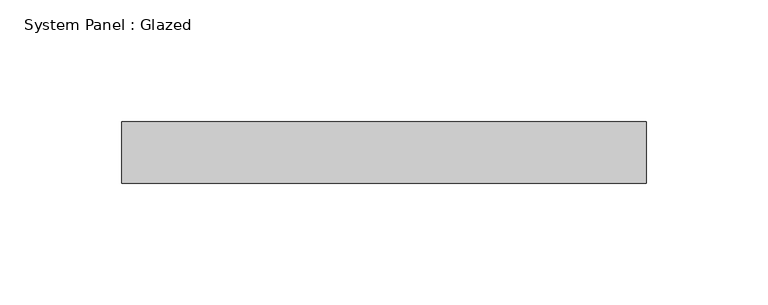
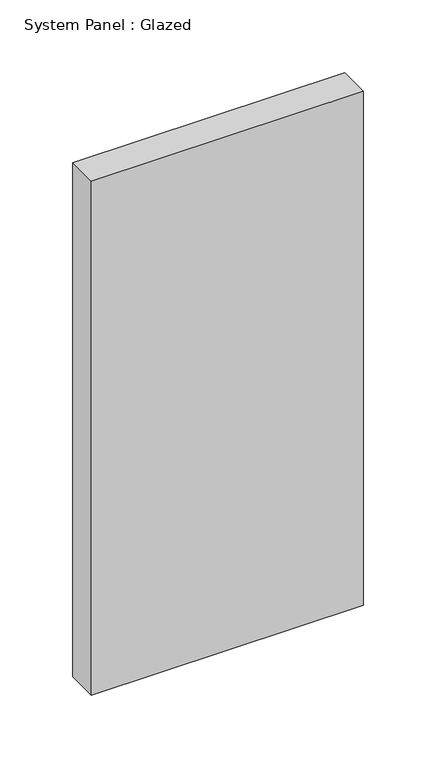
"""IFC4 building model written with IfcOpenShell, lengths in millimetres: plate geometry, System Panel : Glazed."""

from ifc_helpers import new_model, si_unit, origin, origin_with_axes, place, context, project, spatial, polyline, outline, extrude, source, transform, mapped, element, save


def system_panel_glazed_babe58e8(model_context):
    return source(origin(), model_context, "Body", "SweptSolid", [
        extrude(outline(polyline([(107.9884165, -44.45), (-107.9884165, -44.45), (-107.9884165, -19.05), (107.9884165, -19.05), (107.9884165, -44.45)])), origin_with_axes(), (0.0, 0.0, 1.0), 431.8),
    ])


if __name__ == "__main__":
    model = new_model("IFC4")
    model_context = context("Model", 3, world=origin())
    ifc_project = project(units=[si_unit("LENGTHUNIT", "METRE", prefix="MILLI")], contexts=[model_context])
    site = spatial("IfcSite", under=ifc_project)
    building = spatial("IfcBuilding", under=site)
    placement = place(None, origin())
    system_panel_glazed_shape = system_panel_glazed_babe58e8(model_context)
    element("IfcPlate", 1, ObjectType="System Panel : Glazed", at=placement, inside=building, context=model_context, shape_type="MappedRepresentation", body=[
        mapped(system_panel_glazed_shape, transform((0.0, 0.0, 0.0), x_axis=(1.0, 0.0, 0.0), y_axis=(0.0, 1.0, 0.0), z_axis=(0.0, 0.0, 1.0))),
    ])
    save(model, "model.ifc")
